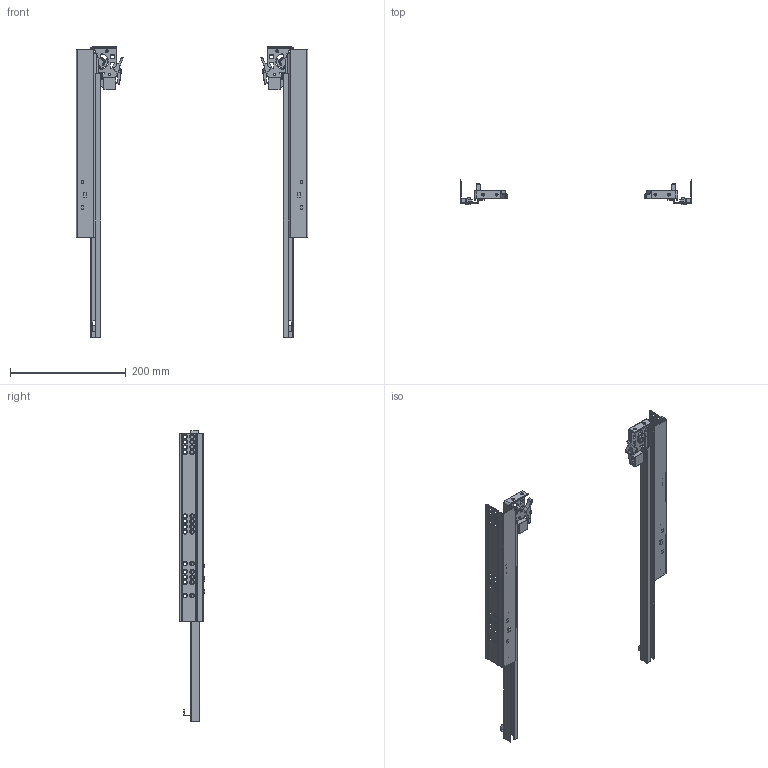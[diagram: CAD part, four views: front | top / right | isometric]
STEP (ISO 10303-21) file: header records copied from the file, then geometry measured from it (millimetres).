
FILE_DESCRIPTION(/* description */ (''),/* implementation_level */ '2;1');
FILE_NAME(/* name */ 'D:\$Workingspace\Designs\Katalog\Cadsoft\GTV Prowadnice\PB-GCHX-...-H_18\PB-GCHX18-500-H.stp',/* time_stamp */ '2021-08-30T09:40:26+02:00',/* author */ ('tomaszw'),/* organization */ (''),/* preprocessor_version */ 'ST-DEVELOPER v18.1',/* originating_system */ 'Autodesk Inventor 2021',/* authorisation */ '');
FILE_SCHEMA (('AUTOMOTIVE_DESIGN { 1 0 10303 214 3 1 1 }'));
Length unit declared in the file: millimetre
Products named in the file (7): PB-GCHX-500_H18; PB-GCHX-CL-500_H18; PB-GCHX-CR-500_H18; PB-GCHX-DL-500_H; PB-GCHX-DR-500_H; PB-GCHX-SL; PB-GCHX-SR
Assembly tree (6 placements, depth 2):
  PB-GCHX-500_H18
    PB-GCHX-CL-500_H18
    PB-GCHX-CR-500_H18
    PB-GCHX-DL-500_H
    PB-GCHX-DR-500_H
    PB-GCHX-SL
    PB-GCHX-SR
Bounding box: 400 x 43.8 x 500.5 mm (x, y, z)
Volume: 243201 mm3; surface area: 263530.1 mm2
Topology: 16 solids, 16 shells, 1230 faces, 2918 edges, 1722 vertices
Faces by surface type: cylinder 466, plane 338, torus 222, sphere 82, bspline 70, cone 52
Full cylindrical faces by diameter (mm): 2 x2, 3 x2, 4 x6, 4.5 x6, 5 x2, 6 x52, 7.889 x2, 9 x2
Entity records: 45442 total; most frequent: CARTESIAN_POINT 15005, DIRECTION 6482, ORIENTED_EDGE 5840, EDGE_CURVE 2920, AXIS2_PLACEMENT_3D 2547, VERTEX_POINT 1726, EDGE_LOOP 1394, LINE 1388
